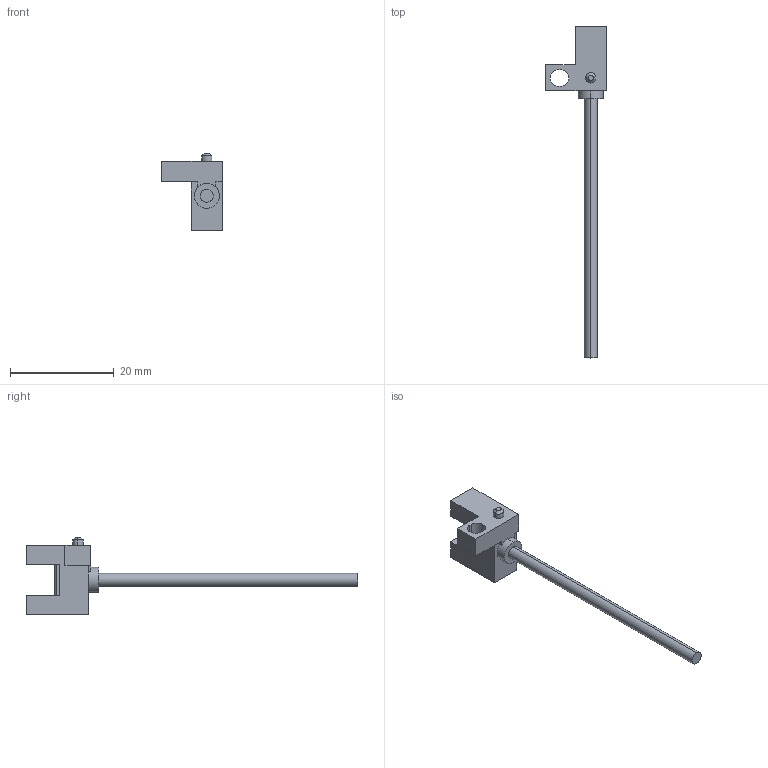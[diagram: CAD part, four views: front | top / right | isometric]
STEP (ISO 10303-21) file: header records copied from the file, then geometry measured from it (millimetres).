
FILE_DESCRIPTION (( 'STEP AP203' ), '1' );
FILE_NAME ('pm-r25.STEP', '2015-07-23T04:38:53', ( '' ), ( '' ), 'SwSTEP 2.0', 'SolidWorks 2010', '' );
FILE_SCHEMA (( 'CONFIG_CONTROL_DESIGN' ));
Length unit declared in the file: millimetre
Products named in the file (1): pm-r25
Bounding box: 11.7 x 64 x 14.9 mm (x, y, z)
Volume: 1135.9 mm3; surface area: 1192.5 mm2
Topology: 1 solids, 1 shells, 65 faces, 169 edges, 112 vertices
Faces by surface type: plane 54, cylinder 9, cone 2
Entity records: 2050 total; most frequent: CARTESIAN_POINT 347, ORIENTED_EDGE 338, DIRECTION 323, EDGE_CURVE 169, LINE 147, VECTOR 147, VERTEX_POINT 112, AXIS2_PLACEMENT_3D 88
